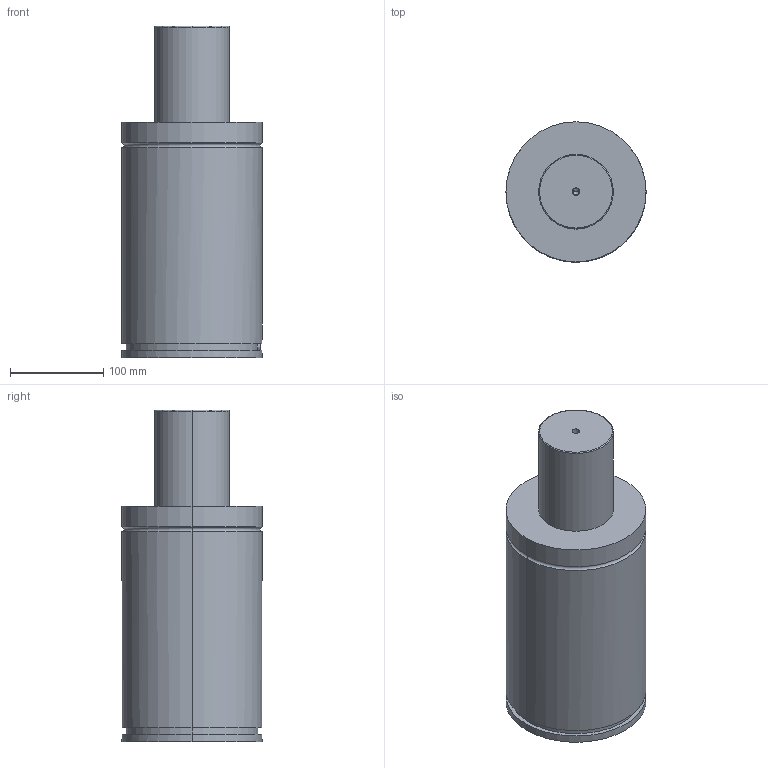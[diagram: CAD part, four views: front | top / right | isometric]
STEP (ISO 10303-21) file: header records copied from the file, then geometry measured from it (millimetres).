
FILE_DESCRIPTION(/* description */ (''),/* implementation_level */ '2;1');
FILE_NAME(/* name */ '3d_gse150-100_03876_r00.stp',/* time_stamp */ '2011-01-10T14:15:20+09:00',/* author */ ('MISUMI'),/* organization */ (''),/* preprocessor_version */ 'ST-DEVELOPER v11',/* originating_system */ 'UGS - NX 5.0',/* authorisation */ '');
FILE_SCHEMA (('CONFIG_CONTROL_DESIGN'));
Length unit declared in the file: millimetre
Products named in the file (1): 3d_gse150-100_03876_r00
Bounding box: 150 x 150 x 355 mm (x, y, z)
Volume: 4944389.6 mm3; surface area: 188325.5 mm2
Topology: 1 solids, 1 shells, 75 faces, 161 edges, 103 vertices
Faces by surface type: cylinder 34, plane 27, cone 10, torus 4
Entity records: 2145 total; most frequent: DIRECTION 393, CARTESIAN_POINT 360, ORIENTED_EDGE 318, AXIS2_PLACEMENT_3D 164, EDGE_CURVE 159, VERTEX_POINT 103, EDGE_LOOP 92, CIRCLE 88
